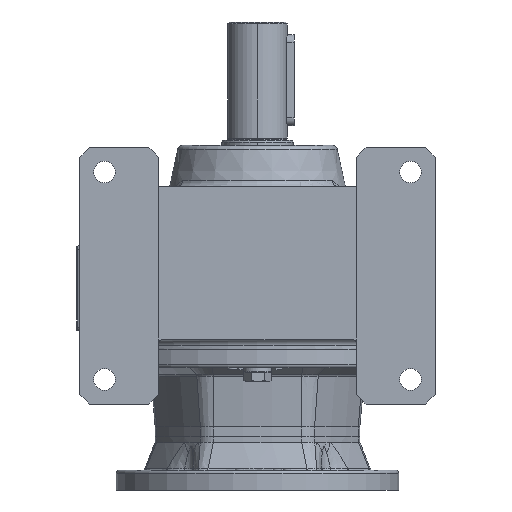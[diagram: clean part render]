
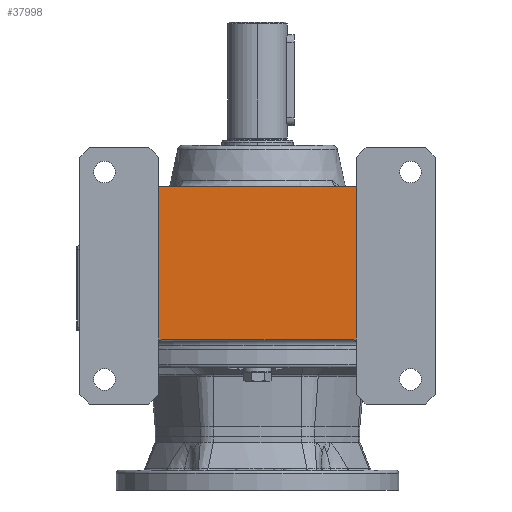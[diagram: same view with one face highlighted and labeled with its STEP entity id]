
A CAD part, front view. The second image highlights one B-rep face of the part: STEP entity #37998.
In plain terms, the highlighted planar face has unit normal (0, -1, 0).
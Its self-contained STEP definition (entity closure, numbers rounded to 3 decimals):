
#4877 = CARTESIAN_POINT ( 'NONE',  ( -100., -135., -158. ) ) ;
#4886 = CARTESIAN_POINT ( 'NONE',  ( -97., -135., -155. ) ) ;
#4893 = CARTESIAN_POINT ( 'NONE',  ( 97., -135., -155. ) ) ;
#4896 = CARTESIAN_POINT ( 'NONE',  ( -100., -135., 0. ) ) ;
#4909 = CARTESIAN_POINT ( 'NONE',  ( 100., -135., 0. ) ) ;
#4914 = CARTESIAN_POINT ( 'NONE',  ( 100., -135., -158. ) ) ;
#7447 = CARTESIAN_POINT ( 'NONE',  ( -97., -135., -158. ) ) ;
#7448 = DIRECTION ( 'NONE',  ( 0., 1., 0. ) ) ;
#7449 = DIRECTION ( 'NONE',  ( 0., 0., 1. ) ) ;
#7450 = CARTESIAN_POINT ( 'NONE',  ( 97., -135., -158. ) ) ;
#7451 = LINE ( 'NONE', #7452, #33581 ) ;
#7452 = CARTESIAN_POINT ( 'NONE',  ( -100., -135., -30. ) ) ;
#7453 = DIRECTION ( 'NONE',  ( 0., 0., 1. ) ) ;
#7454 = LINE ( 'NONE', #7455, #33859 ) ;
#7455 = CARTESIAN_POINT ( 'NONE',  ( -180., -135., -155. ) ) ;
#7456 = DIRECTION ( 'NONE',  ( 1., 0., 0. ) ) ;
#7457 = DIRECTION ( 'NONE',  ( 0., 1., 0. ) ) ;
#7458 = DIRECTION ( 'NONE',  ( 0., 0., 1. ) ) ;
#7459 = LINE ( 'NONE', #7460, #33856 ) ;
#7460 = CARTESIAN_POINT ( 'NONE',  ( 100., -135., -30. ) ) ;
#7461 = DIRECTION ( 'NONE',  ( 0., 0., -1. ) ) ;
#7462 = LINE ( 'NONE', #7463, #33855 ) ;
#7463 = CARTESIAN_POINT ( 'NONE',  ( -193.636, -135., 0. ) ) ;
#7464 = DIRECTION ( 'NONE',  ( -1., 0., 0. ) ) ;
#29054 = AXIS2_PLACEMENT_3D ( 'NONE', #85426, #85427, #85428 ) ;
#29059 = FACE_OUTER_BOUND ( 'NONE', #61004, .T. ) ;
#33563 = AXIS2_PLACEMENT_3D ( 'NONE', #7447, #7448, #7449 ) ;
#33570 = AXIS2_PLACEMENT_3D ( 'NONE', #7450, #7457, #7458 ) ;
#33581 = VECTOR ( 'NONE', #7453, 1000. ) ;
#33855 = VECTOR ( 'NONE', #7464, 1000. ) ;
#33856 = VECTOR ( 'NONE', #7461, 1000. ) ;
#33859 = VECTOR ( 'NONE', #7456, 1000. ) ;
#37998 = ADVANCED_FACE ( 'NONE', ( #29059 ), #85425, .F. ) ;
#51018 = VERTEX_POINT ( 'NONE', #4877 ) ;
#51027 = VERTEX_POINT ( 'NONE', #4886 ) ;
#51034 = VERTEX_POINT ( 'NONE', #4893 ) ;
#51037 = VERTEX_POINT ( 'NONE', #4896 ) ;
#51050 = VERTEX_POINT ( 'NONE', #4909 ) ;
#51055 = VERTEX_POINT ( 'NONE', #4914 ) ;
#61004 = EDGE_LOOP ( 'NONE', ( #73608, #73610, #73609, #73611, #73612, #73613 ) ) ;
#68284 = EDGE_CURVE ( 'NONE', #51018, #51027, #92128, .T. ) ;
#68286 = EDGE_CURVE ( 'NONE', #51018, #51037, #7451, .T. ) ;
#68288 = EDGE_CURVE ( 'NONE', #51027, #51034, #7454, .T. ) ;
#68289 = EDGE_CURVE ( 'NONE', #51034, #51055, #92129, .T. ) ;
#68290 = EDGE_CURVE ( 'NONE', #51050, #51055, #7459, .T. ) ;
#68291 = EDGE_CURVE ( 'NONE', #51050, #51037, #7462, .T. ) ;
#73608 = ORIENTED_EDGE ( 'NONE', *, *, #68286, .F. ) ;
#73609 = ORIENTED_EDGE ( 'NONE', *, *, #68288, .T. ) ;
#73610 = ORIENTED_EDGE ( 'NONE', *, *, #68284, .T. ) ;
#73611 = ORIENTED_EDGE ( 'NONE', *, *, #68289, .T. ) ;
#73612 = ORIENTED_EDGE ( 'NONE', *, *, #68290, .F. ) ;
#73613 = ORIENTED_EDGE ( 'NONE', *, *, #68291, .T. ) ;
#85425 = PLANE ( 'NONE',  #29054 ) ;
#85426 = CARTESIAN_POINT ( 'NONE',  ( -193.636, -135., -165. ) ) ;
#85427 = DIRECTION ( 'NONE',  ( 0., 1., 0. ) ) ;
#85428 = DIRECTION ( 'NONE',  ( 0., 0., 1. ) ) ;
#92128 = CIRCLE ( 'NONE', #33563, 3. ) ;
#92129 = CIRCLE ( 'NONE', #33570, 3. ) ;
